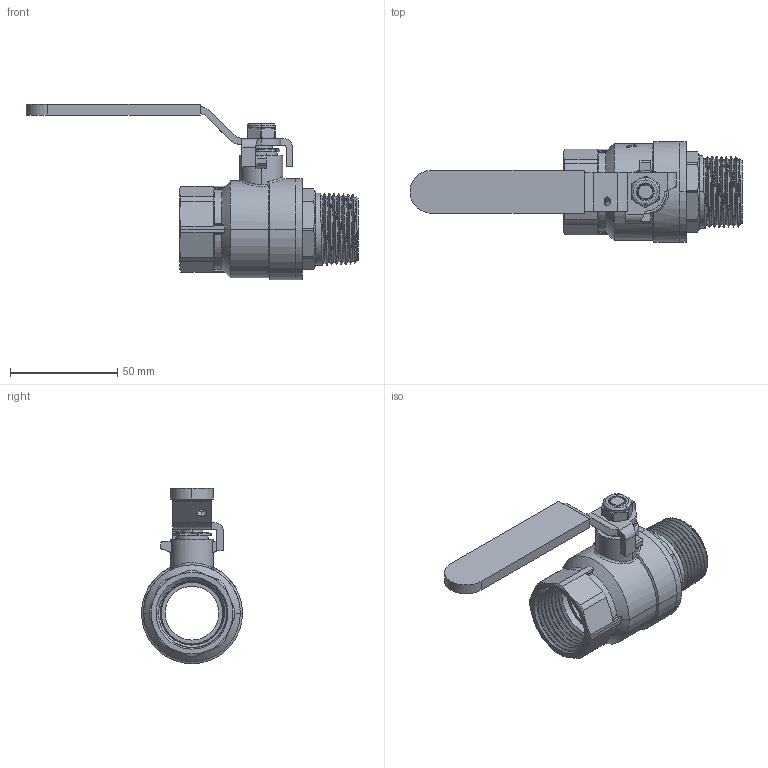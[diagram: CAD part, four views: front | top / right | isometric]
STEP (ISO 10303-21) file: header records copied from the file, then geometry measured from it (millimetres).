
FILE_DESCRIPTION(('Open CASCADE Model'),'2;1');
FILE_NAME('Open CASCADE Shape Model','2021-12-15T11:52:03',('Author'),( 'Open CASCADE'),'Open CASCADE STEP processor 7.3','Open CASCADE 7.3' ,'Unknown');
FILE_SCHEMA(('AUTOMOTIVE_DESIGN { 1 0 10303 214 1 1 1 1 }'));
Length unit declared in the file: millimetre
Products named in the file (12): Open CASCADE STEP translator 7.3 1; Open CASCADE STEP translator 7.3 1.1; Open CASCADE STEP translator 7.3 1.2; Open CASCADE STEP translator 7.3 1.3; Open CASCADE STEP translator 7.3 1.4; Open CASCADE STEP translator 7.3 1.5; Open CASCADE STEP translator 7.3 1.6; Open CASCADE STEP translator 7.3 1.7; Open CASCADE STEP translator 7.3 1.8; Open CASCADE STEP translator 7.3 1.9; Open CASCADE STEP translator 7.3 1.10; Open CASCADE STEP translator 7.3 1.11
Assembly tree (11 placements, depth 2):
  Open CASCADE STEP translator 7.3 1
    Open CASCADE STEP translator 7.3 1.1
    Open CASCADE STEP translator 7.3 1.2
    Open CASCADE STEP translator 7.3 1.3
    Open CASCADE STEP translator 7.3 1.4
    Open CASCADE STEP translator 7.3 1.5
    Open CASCADE STEP translator 7.3 1.6
    Open CASCADE STEP translator 7.3 1.7
    Open CASCADE STEP translator 7.3 1.8
    Open CASCADE STEP translator 7.3 1.9
    Open CASCADE STEP translator 7.3 1.10
    Open CASCADE STEP translator 7.3 1.11
Bounding box: 154.5 x 47 x 81.65 mm (x, y, z)
Volume: 69932.2 mm3; surface area: 48296.9 mm2
Topology: 11 solids, 11 shells, 638 faces, 1689 edges, 1097 vertices
Faces by surface type: cylinder 206, plane 157, bspline 123, cone 122, torus 24, sphere 6
Entity records: 128560 total; most frequent: CARTESIAN_POINT 98894, DIRECTION 4259, ORIENTED_EDGE 3374, PCURVE 3374, DEFINITIONAL_REPRESENTATION 3374, LINE 2150, VECTOR 2150, B_SPLINE_CURVE_WITH_KNOTS 2018
